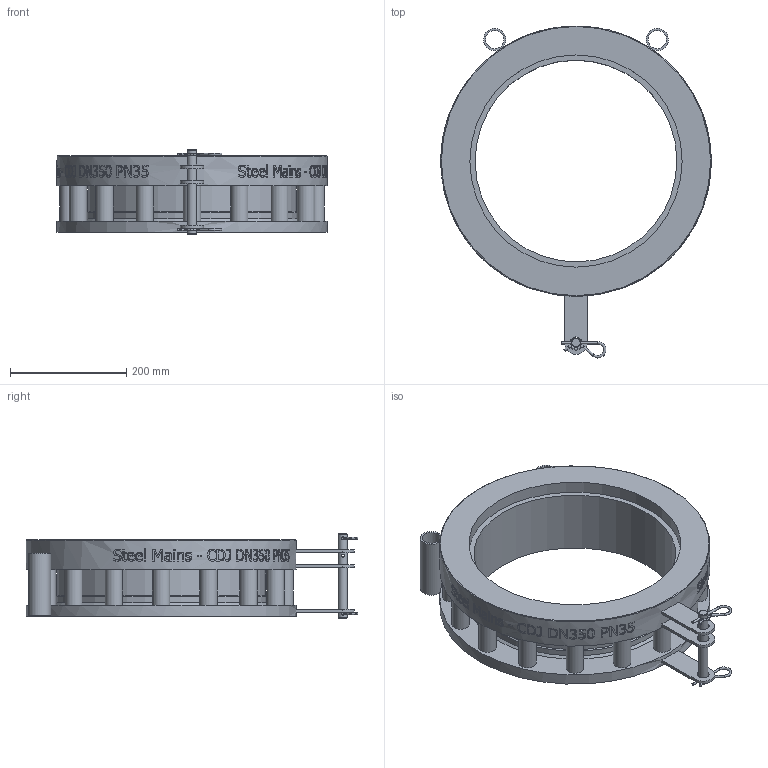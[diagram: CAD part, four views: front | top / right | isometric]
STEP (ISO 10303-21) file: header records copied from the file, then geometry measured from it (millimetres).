
FILE_DESCRIPTION(/* description */ (''),/* implementation_level */ '2;1');
FILE_NAME(/* name */ 'C:\Vault\Designs\Somerton\196\196-33 Models\Marketing Files\SteelMains - CDJ DN350 PN35 - (196-33T rev B).stp',/* time_stamp */ '2025-09-29T09:42:00+10:00',/* author */ ('Sam.Cavallaro'),/* organization */ (''),/* preprocessor_version */ 'ST-DEVELOPER v18.1',/* originating_system */ 'Autodesk Inventor 2021',/* authorisation */ '');
FILE_SCHEMA (('AUTOMOTIVE_DESIGN { 1 0 10303 214 3 1 1 }'));
Length unit declared in the file: millimetre
Products named in the file (1): SPS_ENG-084784
Bounding box: 465 x 571 x 146 mm (x, y, z)
Volume: 6459700.2 mm3; surface area: 755541.7 mm2
Topology: 6 solids, 6 shells, 874 faces, 2396 edges, 1598 vertices
Faces by surface type: bspline 428, plane 323, cylinder 110, torus 8, cone 5
Full cylindrical faces by diameter (mm): 4 x10, 5 x3, 16 x1, 20 x3, 30 x16, 31.6 x2, 38.1 x2, 347 x1, 359 x1, 363 x1, 365 x1, 465 x1
Entity records: 38988 total; most frequent: CARTESIAN_POINT 19028, ORIENTED_EDGE 4798, DIRECTION 2832, EDGE_CURVE 2399, VERTEX_POINT 1601, LINE 1108, VECTOR 1108, EDGE_LOOP 988
